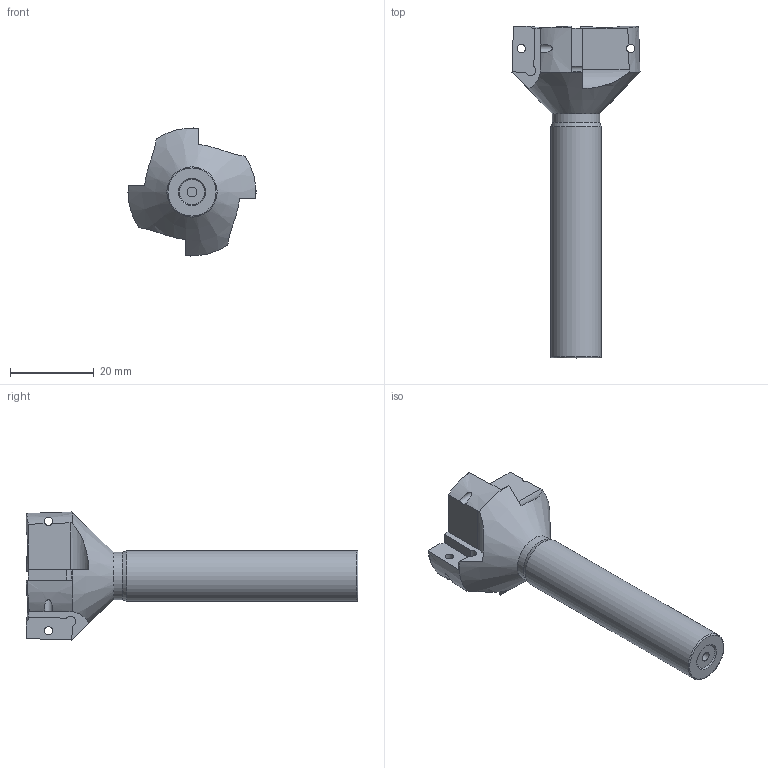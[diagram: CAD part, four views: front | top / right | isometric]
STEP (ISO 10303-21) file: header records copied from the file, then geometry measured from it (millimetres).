
FILE_DESCRIPTION(/* description */ (''),/* implementation_level */ '2;1');
FILE_NAME(/* name */ 'Z:\Проектный отдел\Влад\Фрезы исправления\EAP300R-C12-32-80-4T.stp',/* time_stamp */ '2023-06-05T14:44:22+03:00',/* author */ ('инженер'),/* organization */ (''),/* preprocessor_version */ 'ST-DEVELOPER v18',/* originating_system */ 'Autodesk Inventor 2020',/* authorisation */ '');
FILE_SCHEMA (('AUTOMOTIVE_DESIGN { 1 0 10303 214 3 1 1 }'));
Length unit declared in the file: millimetre
Products named in the file (1): EAP300R-C12-17-150-2T
Bounding box: 30.59 x 79.3 x 30.59 mm (x, y, z)
Volume: 14775.3 mm3; surface area: 5131.5 mm2
Topology: 1 solids, 1 shells, 67 faces, 210 edges, 144 vertices
Faces by surface type: plane 33, cylinder 16, cone 11, torus 5, bspline 2
Full cylindrical faces by diameter (mm): 2 x4, 2.3 x1, 2.5 x1, 11.3 x1, 12 x1
Entity records: 2782 total; most frequent: CARTESIAN_POINT 894, ORIENTED_EDGE 420, DIRECTION 369, EDGE_CURVE 210, AXIS2_PLACEMENT_3D 145, VERTEX_POINT 144, LINE 79, VECTOR 79
